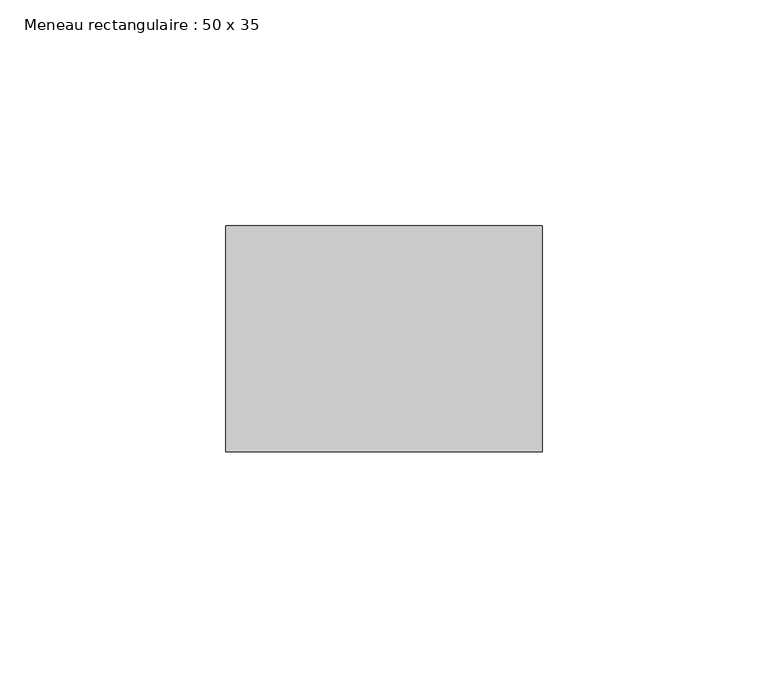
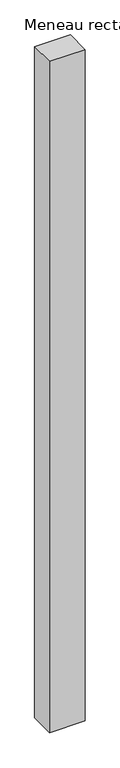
"""IFC4 building model written with IfcOpenShell, lengths in millimetres: member geometry, Meneau rectangulaire : 50 x 35."""

from ifc_helpers import new_model, si_unit, frame, origin, place, context, project, spatial, polyline, outline, extrude, source, transform, mapped, element, save


def meneau_rectangulaire_50_x_35_db75fd40(model_context):
    return source(origin(), model_context, "Body", "SweptSolid", [
        extrude(outline(polyline([(0.0, 0.0), (0.0, -50.0), (-70.0, -50.0), (-70.0, 0.0), (0.0, 0.0)])), frame((0.0, 0.0, -1395.899509), z_axis=(0.0, 0.0, 1.0), x_axis=(1.0, 0.0, 0.0)), (0.0, 0.0, 1.0), 1395.899509),
    ])


if __name__ == "__main__":
    model = new_model("IFC4")
    model_context = context("Model", 3, world=origin())
    ifc_project = project(units=[si_unit("LENGTHUNIT", "METRE", prefix="MILLI")], contexts=[model_context])
    site = spatial("IfcSite", under=ifc_project)
    building = spatial("IfcBuilding", under=site)
    placement = place(None, origin())
    meneau_rectangulaire_50_x_35_shape = meneau_rectangulaire_50_x_35_db75fd40(model_context)
    element("IfcMember", 1, ObjectType="Meneau rectangulaire : 50 x 35", at=placement, inside=building, context=model_context, shape_type="MappedRepresentation", body=[
        mapped(meneau_rectangulaire_50_x_35_shape, transform((0.0, 0.0, 0.0), x_axis=(1.0, 0.0, 0.0), y_axis=(0.0, 1.0, 0.0), z_axis=(0.0, 0.0, 1.0))),
    ])
    save(model, "model.ifc")
